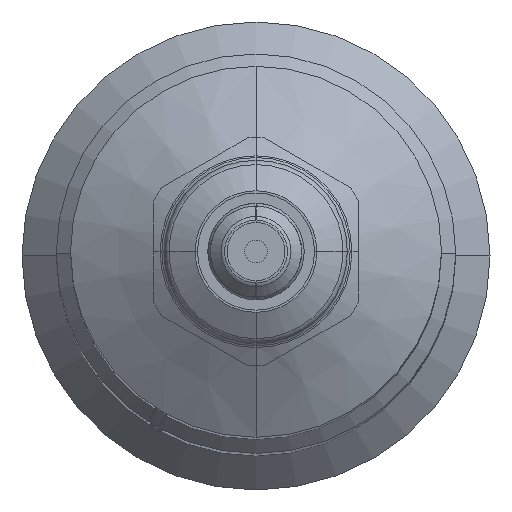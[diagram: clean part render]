
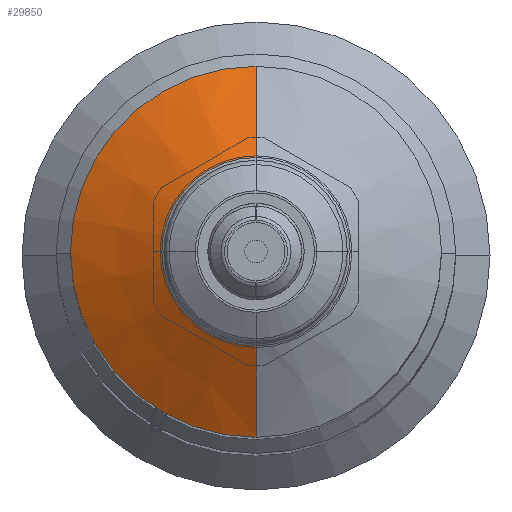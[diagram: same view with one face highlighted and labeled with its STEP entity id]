
A CAD part, top view. The second image highlights one B-rep face of the part: STEP entity #29850.
In plain terms, the highlighted conical face has half-angle 60 degrees and reference radius 32.5 mm.
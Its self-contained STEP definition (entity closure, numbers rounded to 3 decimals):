
#155 = CONICAL_SURFACE ( 'NONE', #11182, 32.5, 1.047 ) ;
#527 = CARTESIAN_POINT ( 'NONE',  ( 0., 32.5, 472.274 ) ) ;
#1104 = AXIS2_PLACEMENT_3D ( 'NONE', #24893, #11056, #27181 ) ;
#1725 = DIRECTION ( 'NONE',  ( 0., 0.866, -0.5 ) ) ;
#2254 = CIRCLE ( 'NONE', #1104, 16.5 ) ;
#3068 = DIRECTION ( 'NONE',  ( 0., -1., 0. ) ) ;
#3523 = EDGE_CURVE ( 'NONE', #5756, #22752, #25437, .T. ) ;
#4896 = ORIENTED_EDGE ( 'NONE', *, *, #6427, .F. ) ;
#5260 = CARTESIAN_POINT ( 'NONE',  ( 0., -16.5, 481.511 ) ) ;
#5756 = VERTEX_POINT ( 'NONE', #23021 ) ;
#6427 = EDGE_CURVE ( 'NONE', #9997, #22752, #29180, .T. ) ;
#7457 = DIRECTION ( 'NONE',  ( 0., 0., 1. ) ) ;
#7605 = EDGE_CURVE ( 'NONE', #11386, #5756, #11791, .T. ) ;
#8327 = AXIS2_PLACEMENT_3D ( 'NONE', #23086, #24296, #24176 ) ;
#9997 = VERTEX_POINT ( 'NONE', #5260 ) ;
#10203 = LINE ( 'NONE', #27115, #22451 ) ;
#10857 = EDGE_CURVE ( 'NONE', #22954, #9997, #2254, .T. ) ;
#10968 = DIRECTION ( 'NONE',  ( 0., -0.866, -0.5 ) ) ;
#11056 = DIRECTION ( 'NONE',  ( 0., 0., 1. ) ) ;
#11182 = AXIS2_PLACEMENT_3D ( 'NONE', #11730, #19104, #3068 ) ;
#11386 = VERTEX_POINT ( 'NONE', #527 ) ;
#11730 = CARTESIAN_POINT ( 'NONE',  ( 0., 0., 472.274 ) ) ;
#11791 = CIRCLE ( 'NONE', #25236, 32.5 ) ;
#14437 = EDGE_CURVE ( 'NONE', #22954, #11386, #10203, .T. ) ;
#15328 = ORIENTED_EDGE ( 'NONE', *, *, #3523, .T. ) ;
#18303 = ORIENTED_EDGE ( 'NONE', *, *, #7605, .T. ) ;
#19104 = DIRECTION ( 'NONE',  ( 0., 0., -1. ) ) ;
#19347 = CARTESIAN_POINT ( 'NONE',  ( 0., -32.5, 472.274 ) ) ;
#20713 = EDGE_LOOP ( 'NONE', ( #27705, #26234, #18303, #15328, #4896 ) ) ;
#21266 = CARTESIAN_POINT ( 'NONE',  ( 0., 0., 472.274 ) ) ;
#22451 = VECTOR ( 'NONE', #1725, 1000. ) ;
#22752 = VERTEX_POINT ( 'NONE', #23615 ) ;
#22954 = VERTEX_POINT ( 'NONE', #28255 ) ;
#23021 = CARTESIAN_POINT ( 'NONE',  ( -32.5, 0., 472.274 ) ) ;
#23086 = CARTESIAN_POINT ( 'NONE',  ( 0., 0., 472.274 ) ) ;
#23579 = DIRECTION ( 'NONE',  ( 0., 1., 0. ) ) ;
#23615 = CARTESIAN_POINT ( 'NONE',  ( 0., -32.5, 472.274 ) ) ;
#24176 = DIRECTION ( 'NONE',  ( 0., 1., 0. ) ) ;
#24296 = DIRECTION ( 'NONE',  ( 0., 0., 1. ) ) ;
#24893 = CARTESIAN_POINT ( 'NONE',  ( 0., 0., 481.511 ) ) ;
#25236 = AXIS2_PLACEMENT_3D ( 'NONE', #21266, #7457, #23579 ) ;
#25437 = CIRCLE ( 'NONE', #8327, 32.5 ) ;
#26234 = ORIENTED_EDGE ( 'NONE', *, *, #14437, .T. ) ;
#27115 = CARTESIAN_POINT ( 'NONE',  ( 0., 32.5, 472.274 ) ) ;
#27181 = DIRECTION ( 'NONE',  ( 0., 1., 0. ) ) ;
#27554 = FACE_OUTER_BOUND ( 'NONE', #20713, .T. ) ;
#27705 = ORIENTED_EDGE ( 'NONE', *, *, #10857, .F. ) ;
#28255 = CARTESIAN_POINT ( 'NONE',  ( 0., 16.5, 481.511 ) ) ;
#28472 = VECTOR ( 'NONE', #10968, 1000. ) ;
#29180 = LINE ( 'NONE', #19347, #28472 ) ;
#29850 = ADVANCED_FACE ( 'NONE', ( #27554 ), #155, .T. ) ;
